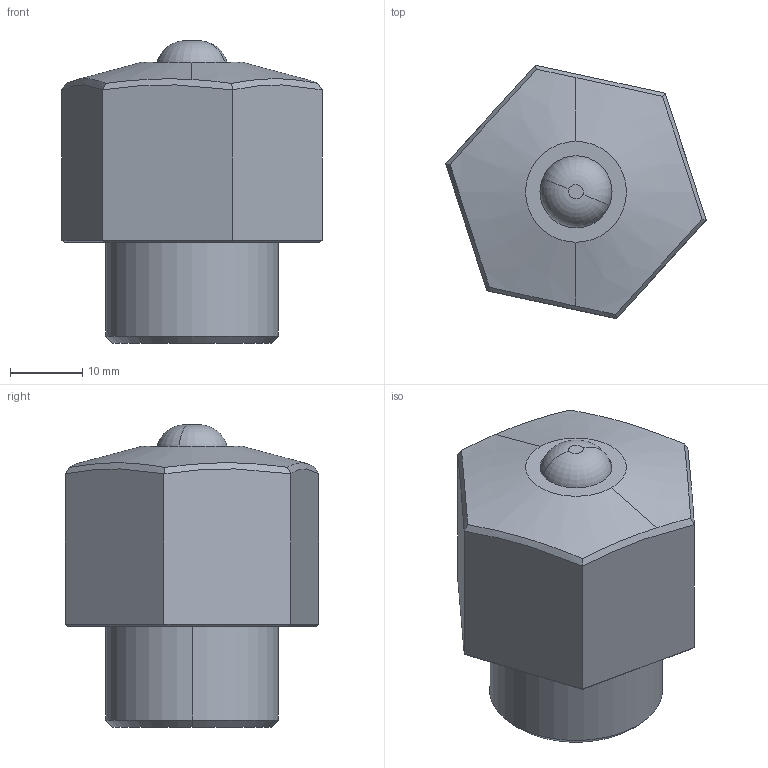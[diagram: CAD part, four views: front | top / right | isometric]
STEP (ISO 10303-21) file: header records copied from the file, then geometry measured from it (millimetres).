
FILE_DESCRIPTION (( 'STEP AP214' ), '1' );
FILE_NAME ('TO4C-M242.STEP', '2020-08-02T05:17:24', ( '' ), ( '' ), 'SwSTEP 2.0', 'SolidWorks 2019', '' );
FILE_SCHEMA (( 'AUTOMOTIVE_DESIGN' ));
Length unit declared in the file: millimetre
Products named in the file (3): PISTON-M242; TO4C-M242; TO3C-M242-BODY.
Assembly tree (2 placements, depth 2):
  TO4C-M242
    TO3C-M242-BODY.
    PISTON-M242
Bounding box: 36.12 x 35.17 x 42 mm (x, y, z)
Volume: 26763.6 mm3; surface area: 7529.5 mm2
Topology: 2 solids, 2 shells, 44 faces, 90 edges, 54 vertices
Faces by surface type: plane 20, cylinder 10, cone 6, bspline 6, torus 2
Entity records: 2084 total; most frequent: CARTESIAN_POINT 1063, DIRECTION 186, ORIENTED_EDGE 180, EDGE_CURVE 90, AXIS2_PLACEMENT_3D 73, VERTEX_POINT 54, EDGE_LOOP 48, ADVANCED_FACE 44
